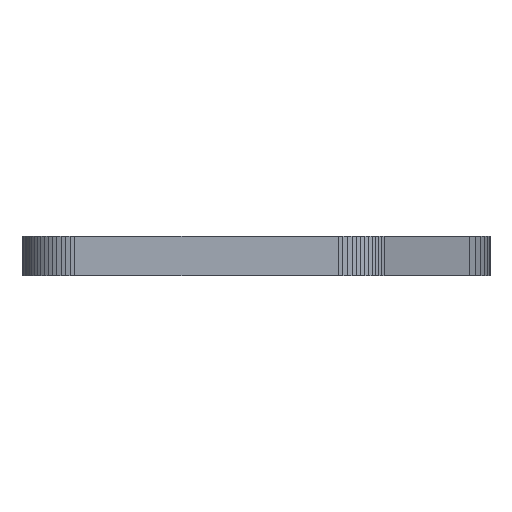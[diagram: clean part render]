
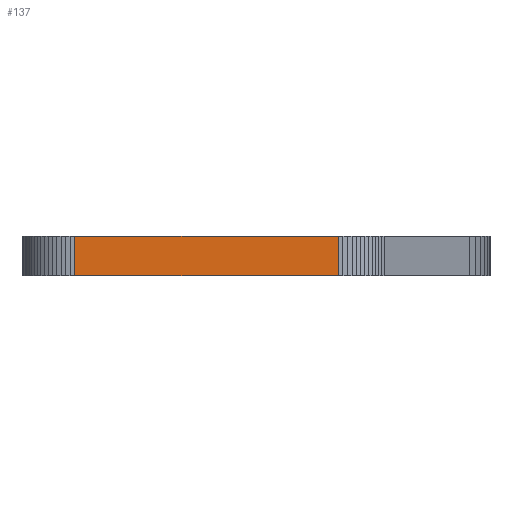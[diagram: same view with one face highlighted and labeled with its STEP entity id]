
A CAD part, left-side view. The second image highlights one B-rep face of the part: STEP entity #137.
In plain terms, the highlighted planar face has unit normal (-1, 0, 0).
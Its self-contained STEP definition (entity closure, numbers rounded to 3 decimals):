
#21 = EDGE_CURVE('',#22,#24,#26,.T.);
#22 = VERTEX_POINT('',#23);
#23 = CARTESIAN_POINT('',(-8.,0.,0.));
#24 = VERTEX_POINT('',#25);
#25 = CARTESIAN_POINT('',(-8.,0.,6.));
#26 = SURFACE_CURVE('',#27,(#31,#43),.PCURVE_S1.);
#27 = LINE('',#28,#29);
#28 = CARTESIAN_POINT('',(-8.,0.,0.));
#29 = VECTOR('',#30,1.);
#30 = DIRECTION('',(0.,0.,1.));
#31 = PCURVE('',#32,#37);
#32 = PLANE('',#33);
#33 = AXIS2_PLACEMENT_3D('',#34,#35,#36);
#34 = CARTESIAN_POINT('',(-8.,0.,0.));
#35 = DIRECTION('',(0.999,0.044,-0.));
#36 = DIRECTION('',(0.044,-0.999,0.));
#37 = DEFINITIONAL_REPRESENTATION('',(#38),#42);
#38 = LINE('',#39,#40);
#39 = CARTESIAN_POINT('',(0.,0.));
#40 = VECTOR('',#41,1.);
#41 = DIRECTION('',(0.,-1.));
#42 = ( GEOMETRIC_REPRESENTATION_CONTEXT(2) 
PARAMETRIC_REPRESENTATION_CONTEXT() REPRESENTATION_CONTEXT('2D SPACE',''
  ) );
#43 = PCURVE('',#44,#49);
#44 = PLANE('',#45);
#45 = AXIS2_PLACEMENT_3D('',#46,#47,#48);
#46 = CARTESIAN_POINT('',(-8.,40.,0.));
#47 = DIRECTION('',(1.,0.,-0.));
#48 = DIRECTION('',(0.,-1.,0.));
#49 = DEFINITIONAL_REPRESENTATION('',(#50),#54);
#50 = LINE('',#51,#52);
#51 = CARTESIAN_POINT('',(40.,0.));
#52 = VECTOR('',#53,1.);
#53 = DIRECTION('',(0.,-1.));
#54 = ( GEOMETRIC_REPRESENTATION_CONTEXT(2) 
PARAMETRIC_REPRESENTATION_CONTEXT() REPRESENTATION_CONTEXT('2D SPACE',''
  ) );
#72 = PLANE('',#73);
#73 = AXIS2_PLACEMENT_3D('',#74,#75,#76);
#74 = CARTESIAN_POINT('',(19.548,10.493,6.));
#75 = DIRECTION('',(0.,0.,1.));
#76 = DIRECTION('',(1.,0.,-0.));
#126 = PLANE('',#127);
#127 = AXIS2_PLACEMENT_3D('',#128,#129,#130);
#128 = CARTESIAN_POINT('',(19.548,10.493,0.));
#129 = DIRECTION('',(0.,0.,1.));
#130 = DIRECTION('',(1.,0.,-0.));
#137 = ADVANCED_FACE('',(#138),#44,.F.);
#138 = FACE_BOUND('',#139,.F.);
#139 = EDGE_LOOP('',(#140,#170,#191,#192));
#140 = ORIENTED_EDGE('',*,*,#141,.T.);
#141 = EDGE_CURVE('',#142,#144,#146,.T.);
#142 = VERTEX_POINT('',#143);
#143 = CARTESIAN_POINT('',(-8.,40.,0.));
#144 = VERTEX_POINT('',#145);
#145 = CARTESIAN_POINT('',(-8.,40.,6.));
#146 = SURFACE_CURVE('',#147,(#151,#158),.PCURVE_S1.);
#147 = LINE('',#148,#149);
#148 = CARTESIAN_POINT('',(-8.,40.,0.));
#149 = VECTOR('',#150,1.);
#150 = DIRECTION('',(0.,0.,1.));
#151 = PCURVE('',#44,#152);
#152 = DEFINITIONAL_REPRESENTATION('',(#153),#157);
#153 = LINE('',#154,#155);
#154 = CARTESIAN_POINT('',(0.,0.));
#155 = VECTOR('',#156,1.);
#156 = DIRECTION('',(0.,-1.));
#157 = ( GEOMETRIC_REPRESENTATION_CONTEXT(2) 
PARAMETRIC_REPRESENTATION_CONTEXT() REPRESENTATION_CONTEXT('2D SPACE',''
  ) );
#158 = PCURVE('',#159,#164);
#159 = PLANE('',#160);
#160 = AXIS2_PLACEMENT_3D('',#161,#162,#163);
#161 = CARTESIAN_POINT('',(-7.97,40.697,0.));
#162 = DIRECTION('',(0.999,-0.044,0.));
#163 = DIRECTION('',(-0.044,-0.999,0.));
#164 = DEFINITIONAL_REPRESENTATION('',(#165),#169);
#165 = LINE('',#166,#167);
#166 = CARTESIAN_POINT('',(0.698,0.));
#167 = VECTOR('',#168,1.);
#168 = DIRECTION('',(0.,-1.));
#169 = ( GEOMETRIC_REPRESENTATION_CONTEXT(2) 
PARAMETRIC_REPRESENTATION_CONTEXT() REPRESENTATION_CONTEXT('2D SPACE',''
  ) );
#170 = ORIENTED_EDGE('',*,*,#171,.T.);
#171 = EDGE_CURVE('',#144,#24,#172,.T.);
#172 = SURFACE_CURVE('',#173,(#177,#184),.PCURVE_S1.);
#173 = LINE('',#174,#175);
#174 = CARTESIAN_POINT('',(-8.,40.,6.));
#175 = VECTOR('',#176,1.);
#176 = DIRECTION('',(0.,-1.,0.));
#177 = PCURVE('',#44,#178);
#178 = DEFINITIONAL_REPRESENTATION('',(#179),#183);
#179 = LINE('',#180,#181);
#180 = CARTESIAN_POINT('',(0.,-6.));
#181 = VECTOR('',#182,1.);
#182 = DIRECTION('',(1.,0.));
#183 = ( GEOMETRIC_REPRESENTATION_CONTEXT(2) 
PARAMETRIC_REPRESENTATION_CONTEXT() REPRESENTATION_CONTEXT('2D SPACE',''
  ) );
#184 = PCURVE('',#72,#185);
#185 = DEFINITIONAL_REPRESENTATION('',(#186),#190);
#186 = LINE('',#187,#188);
#187 = CARTESIAN_POINT('',(-27.548,29.507));
#188 = VECTOR('',#189,1.);
#189 = DIRECTION('',(0.,-1.));
#190 = ( GEOMETRIC_REPRESENTATION_CONTEXT(2) 
PARAMETRIC_REPRESENTATION_CONTEXT() REPRESENTATION_CONTEXT('2D SPACE',''
  ) );
#191 = ORIENTED_EDGE('',*,*,#21,.F.);
#192 = ORIENTED_EDGE('',*,*,#193,.F.);
#193 = EDGE_CURVE('',#142,#22,#194,.T.);
#194 = SURFACE_CURVE('',#195,(#199,#206),.PCURVE_S1.);
#195 = LINE('',#196,#197);
#196 = CARTESIAN_POINT('',(-8.,40.,0.));
#197 = VECTOR('',#198,1.);
#198 = DIRECTION('',(0.,-1.,0.));
#199 = PCURVE('',#44,#200);
#200 = DEFINITIONAL_REPRESENTATION('',(#201),#205);
#201 = LINE('',#202,#203);
#202 = CARTESIAN_POINT('',(0.,0.));
#203 = VECTOR('',#204,1.);
#204 = DIRECTION('',(1.,0.));
#205 = ( GEOMETRIC_REPRESENTATION_CONTEXT(2) 
PARAMETRIC_REPRESENTATION_CONTEXT() REPRESENTATION_CONTEXT('2D SPACE',''
  ) );
#206 = PCURVE('',#126,#207);
#207 = DEFINITIONAL_REPRESENTATION('',(#208),#212);
#208 = LINE('',#209,#210);
#209 = CARTESIAN_POINT('',(-27.548,29.507));
#210 = VECTOR('',#211,1.);
#211 = DIRECTION('',(0.,-1.));
#212 = ( GEOMETRIC_REPRESENTATION_CONTEXT(2) 
PARAMETRIC_REPRESENTATION_CONTEXT() REPRESENTATION_CONTEXT('2D SPACE',''
  ) );
